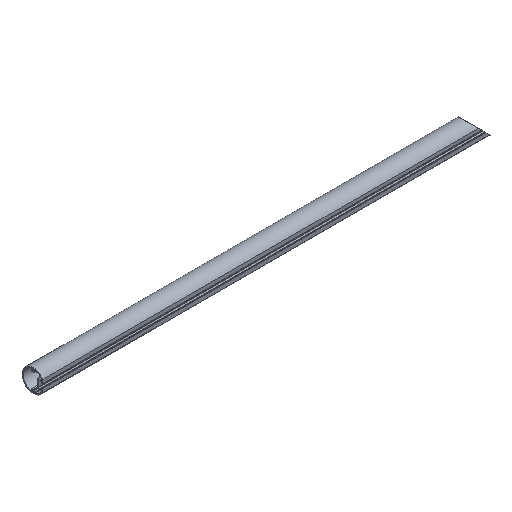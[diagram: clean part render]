
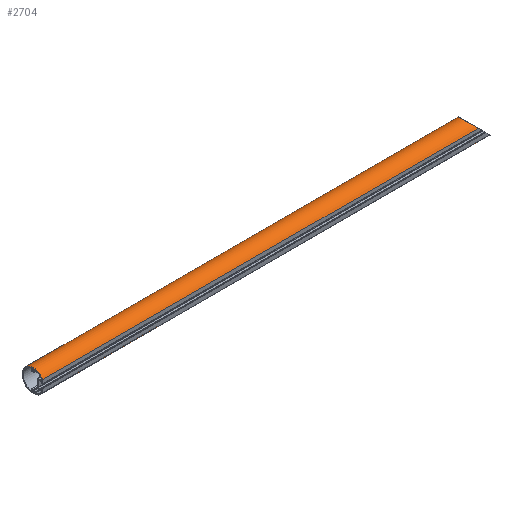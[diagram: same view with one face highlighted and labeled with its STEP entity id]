
A CAD part, isometric view. The second image highlights one B-rep face of the part: STEP entity #2704.
In plain terms, the highlighted cylindrical face has radius 25 mm (diameter 50 mm), a partial arc.
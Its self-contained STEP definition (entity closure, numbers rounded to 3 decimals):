
#1296=ELLIPSE('',#2572,35.355,25.);
#1326=CIRCLE('',#2571,25.);
#1356=ORIENTED_EDGE('',*,*,#1824,.F.);
#1357=ORIENTED_EDGE('',*,*,#1825,.T.);
#1358=ORIENTED_EDGE('',*,*,#1826,.T.);
#1359=ORIENTED_EDGE('',*,*,#1827,.T.);
#1608=VECTOR('',#2044,1.);
#1609=VECTOR('',#2047,1.);
#1674=LINE('',#2319,#1608);
#1675=LINE('',#2323,#1609);
#1740=VERTEX_POINT('',#2317);
#1741=VERTEX_POINT('',#2318);
#1742=VERTEX_POINT('',#2320);
#1743=VERTEX_POINT('',#2322);
#1824=EDGE_CURVE('',#1740,#1741,#1674,.T.);
#1825=EDGE_CURVE('',#1740,#1742,#1326,.T.);
#1826=EDGE_CURVE('',#1742,#1743,#1675,.T.);
#1827=EDGE_CURVE('',#1743,#1741,#1296,.T.);
#1950=EDGE_LOOP('',(#1356,#1357,#1358,#1359));
#1996=FACE_BOUND('',#1950,.T.);
#2042=DIRECTION('',(1.,0.,0.));
#2043=DIRECTION('',(0.,-0.86,-0.51));
#2044=DIRECTION('',(997.758,0.,0.));
#2045=DIRECTION('',(1.,0.,0.));
#2046=DIRECTION('',(0.,-21.5,-12.757));
#2047=DIRECTION('',(972.243,0.,0.));
#2048=DIRECTION('',(-0.707,0.,-0.707));
#2049=DIRECTION('',(-0.707,0.,0.707));
#2316=CARTESIAN_POINT('',(0.,-25.,25.));
#2317=CARTESIAN_POINT('',(0.,-46.5,12.243));
#2318=CARTESIAN_POINT('',(997.758,-46.5,12.243));
#2319=CARTESIAN_POINT('',(0.,-46.5,12.243));
#2320=CARTESIAN_POINT('',(0.,-46.5,37.757));
#2321=CARTESIAN_POINT('',(0.,-25.,25.));
#2322=CARTESIAN_POINT('',(972.243,-46.5,37.757));
#2323=CARTESIAN_POINT('',(0.,-46.5,37.757));
#2324=CARTESIAN_POINT('',(985.,-25.,25.));
#2570=AXIS2_PLACEMENT_3D('',#2316,#2042,#2043);
#2571=AXIS2_PLACEMENT_3D('',#2321,#2045,#2046);
#2572=AXIS2_PLACEMENT_3D('',#2324,#2048,#2049);
#2674=CYLINDRICAL_SURFACE('',#2570,25.);
#2704=ADVANCED_FACE('',(#1996),#2674,.T.);
